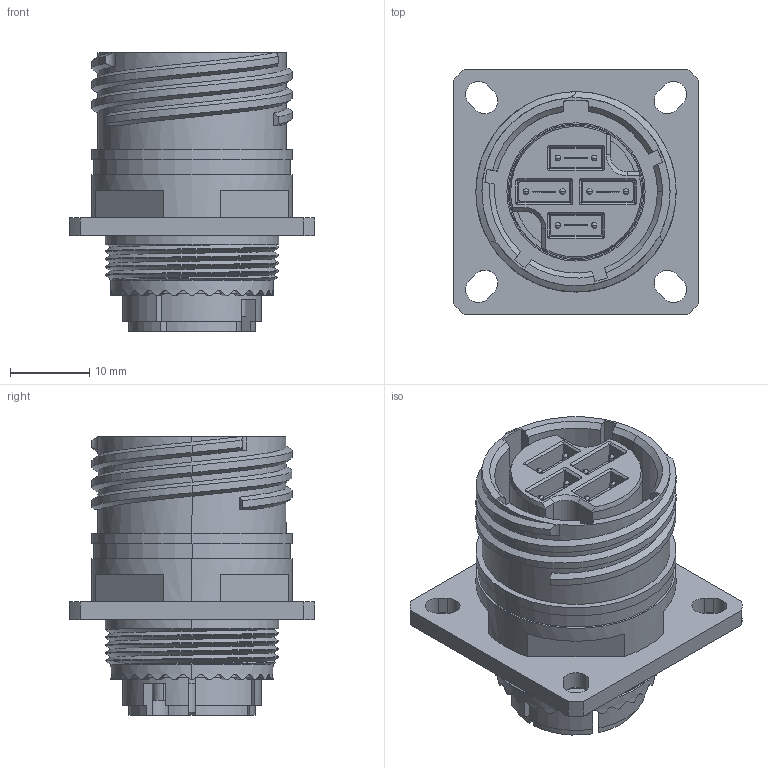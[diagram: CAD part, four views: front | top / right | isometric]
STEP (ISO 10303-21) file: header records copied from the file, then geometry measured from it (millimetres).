
FILE_DESCRIPTION (( 'STEP AP214' ), '1' );
FILE_NAME ('Q38MT-RFX-15XX-X.STEP', '2025-08-27T15:04:10', ( '' ), ( '' ), 'SwSTEP 2.0', 'SolidWorks 2024', '' );
FILE_SCHEMA (( 'AUTOMOTIVE_DESIGN' ));
Length unit declared in the file: inch
Products named in the file (1): Q38MT-RFX-15XX-X
Bounding box: 30.99 x 30.99 x 35.18 mm (x, y, z)
Volume: 12953.4 mm3; surface area: 8516.1 mm2
Topology: 1 solids, 8 shells, 801 faces, 2045 edges, 1328 vertices
Faces by surface type: plane 356, cylinder 351, cone 61, bspline 17, sphere 16
Entity records: 28551 total; most frequent: CARTESIAN_POINT 9305, DIRECTION 4115, ORIENTED_EDGE 4058, EDGE_CURVE 2029, AXIS2_PLACEMENT_3D 1605, VERTEX_POINT 1328, LINE 905, VECTOR 905
